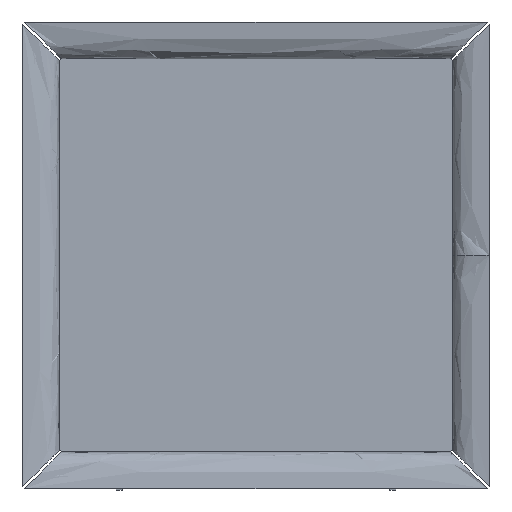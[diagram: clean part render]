
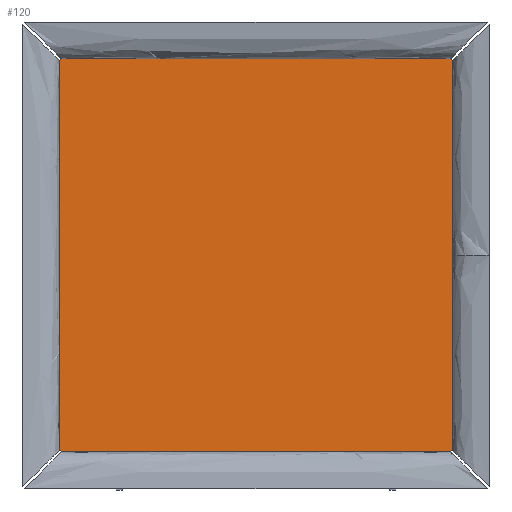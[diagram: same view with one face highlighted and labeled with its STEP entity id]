
A CAD part, top view. The second image highlights one B-rep face of the part: STEP entity #120.
In plain terms, the highlighted planar face has unit normal (0, 0, 1).
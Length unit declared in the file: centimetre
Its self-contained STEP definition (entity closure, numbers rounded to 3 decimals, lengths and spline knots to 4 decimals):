
#120=ADVANCED_FACE($,(#226),#1260,.T.);
#226=FACE_OUTER_BOUND($,#334,.T.);
#334=EDGE_LOOP($,(#740,#741,#742,#743,#744,#745,#746,#747));
#740=ORIENTED_EDGE($,*,*,#1024,.T.);
#741=ORIENTED_EDGE($,*,*,#1038,.T.);
#742=ORIENTED_EDGE($,*,*,#1037,.T.);
#743=ORIENTED_EDGE($,*,*,#1036,.T.);
#744=ORIENTED_EDGE($,*,*,#1035,.T.);
#745=ORIENTED_EDGE($,*,*,#1034,.T.);
#746=ORIENTED_EDGE($,*,*,#1033,.T.);
#747=ORIENTED_EDGE($,*,*,#1032,.T.);
#1024=EDGE_CURVE($,#1193,#1207,#1522,.T.);
#1032=EDGE_CURVE($,#1201,#1193,#1530,.T.);
#1033=EDGE_CURVE($,#1202,#1201,#1531,.T.);
#1034=EDGE_CURVE($,#1203,#1202,#1532,.T.);
#1035=EDGE_CURVE($,#1204,#1203,#1533,.T.);
#1036=EDGE_CURVE($,#1205,#1204,#1534,.T.);
#1037=EDGE_CURVE($,#1206,#1205,#1535,.T.);
#1038=EDGE_CURVE($,#1207,#1206,#1536,.T.);
#1193=VERTEX_POINT($,#4603);
#1201=VERTEX_POINT($,#4611);
#1202=VERTEX_POINT($,#4612);
#1203=VERTEX_POINT($,#4613);
#1204=VERTEX_POINT($,#4614);
#1205=VERTEX_POINT($,#4615);
#1206=VERTEX_POINT($,#4616);
#1207=VERTEX_POINT($,#4617);
#1260=PLANE($,#1694);
#1522=B_SPLINE_CURVE_WITH_KNOTS($,1,(#4548,#4549),.UNSPECIFIED.,.F.,.F.,
(2,2),(489.3042,490.5062),.UNSPECIFIED.);
#1530=B_SPLINE_CURVE_WITH_KNOTS($,1,(#4564,#4565),.UNSPECIFIED.,.F.,.F.,
(2,2),(981.0125,1143.3125),.UNSPECIFIED.);
#1531=B_SPLINE_CURVE_WITH_KNOTS($,1,(#4566,#4567),.UNSPECIFIED.,.F.,.F.,
(2,2),(979.8104,981.0125),.UNSPECIFIED.);
#1532=B_SPLINE_CURVE_WITH_KNOTS($,1,(#4568,#4569),.UNSPECIFIED.,.F.,.F.,
(2,2),(817.5104,979.8104),.UNSPECIFIED.);
#1533=B_SPLINE_CURVE_WITH_KNOTS($,1,(#4570,#4571),.UNSPECIFIED.,.F.,.F.,
(2,2),(816.3083,817.5104),.UNSPECIFIED.);
#1534=B_SPLINE_CURVE_WITH_KNOTS($,1,(#4572,#4573),.UNSPECIFIED.,.F.,.F.,
(2,2),(654.0083,816.3083),.UNSPECIFIED.);
#1535=B_SPLINE_CURVE_WITH_KNOTS($,1,(#4574,#4575),.UNSPECIFIED.,.F.,.F.,
(2,2),(652.8062,654.0083),.UNSPECIFIED.);
#1536=B_SPLINE_CURVE_WITH_KNOTS($,1,(#4576,#4577),.UNSPECIFIED.,.F.,.F.,
(2,2),(490.5062,652.8062),.UNSPECIFIED.);
#1694=AXIS2_PLACEMENT_3D($,#4594,#1747,$);
#1747=DIRECTION($,(0.,0.,1.));
#4548=CARTESIAN_POINT($,(0.85,164.,3.6));
#4549=CARTESIAN_POINT($,(0.,163.15,3.6));
#4564=CARTESIAN_POINT($,(163.15,164.,3.6));
#4565=CARTESIAN_POINT($,(0.85,164.,3.6));
#4566=CARTESIAN_POINT($,(164.,163.15,3.6));
#4567=CARTESIAN_POINT($,(163.15,164.,3.6));
#4568=CARTESIAN_POINT($,(164.,0.85,3.6));
#4569=CARTESIAN_POINT($,(164.,163.15,3.6));
#4570=CARTESIAN_POINT($,(163.15,0.,3.6));
#4571=CARTESIAN_POINT($,(164.,0.85,3.6));
#4572=CARTESIAN_POINT($,(0.85,0.,3.6));
#4573=CARTESIAN_POINT($,(163.15,0.,3.6));
#4574=CARTESIAN_POINT($,(0.,0.85,3.6));
#4575=CARTESIAN_POINT($,(0.85,0.,3.6));
#4576=CARTESIAN_POINT($,(0.,163.15,3.6));
#4577=CARTESIAN_POINT($,(0.,0.85,3.6));
#4594=CARTESIAN_POINT($,(0.,0.,3.6));
#4603=CARTESIAN_POINT($,(0.85,164.,3.6));
#4611=CARTESIAN_POINT($,(163.15,164.,3.6));
#4612=CARTESIAN_POINT($,(164.,163.15,3.6));
#4613=CARTESIAN_POINT($,(164.,0.85,3.6));
#4614=CARTESIAN_POINT($,(163.15,0.,3.6));
#4615=CARTESIAN_POINT($,(0.85,0.,3.6));
#4616=CARTESIAN_POINT($,(0.,0.85,3.6));
#4617=CARTESIAN_POINT($,(0.,163.15,3.6));
